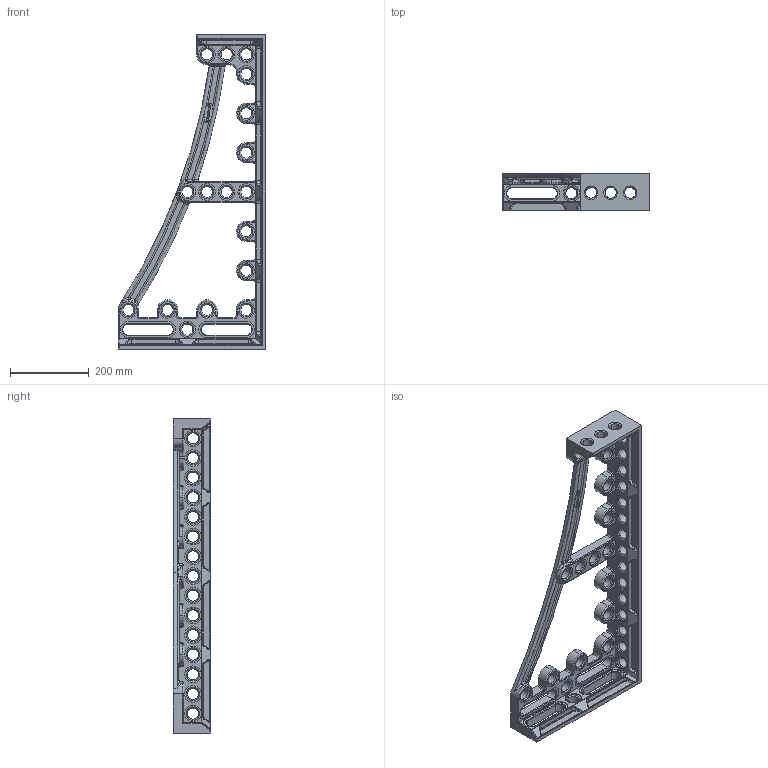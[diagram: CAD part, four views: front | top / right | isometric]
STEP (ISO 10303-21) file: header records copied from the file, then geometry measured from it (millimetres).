
FILE_DESCRIPTION(('STEP AP214'),'1');
FILE_NAME('C:/Users/E.Bergmann/Desktop/28er Formate Neu/280144.STP','2011-09-09T12:08:59',(' '),(' '),'Spatial InterOp 3D',' ',' ');
FILE_SCHEMA(('automotive_design'));
Length unit declared in the file: millimetre
Products named in the file (2): Zylindersegment; Mari9982arm3
Bounding box: 376 x 95 x 800 mm (x, y, z)
Volume: 3667045.6 mm3; surface area: 548977 mm2
Topology: 2 solids, 2 shells, 1256 faces, 3293 edges, 2077 vertices
Faces by surface type: cylinder 730, plane 234, cone 176, torus 59, bspline 41, sphere 16
Entity records: 54801 total; most frequent: CARTESIAN_POINT 12528, DIRECTION 7324, ORIENTED_EDGE 6560, EDGE_CURVE 3280, AXIS2_PLACEMENT_3D 2958, VERTEX_POINT 2077, CIRCLE 1701, LINE 1408
